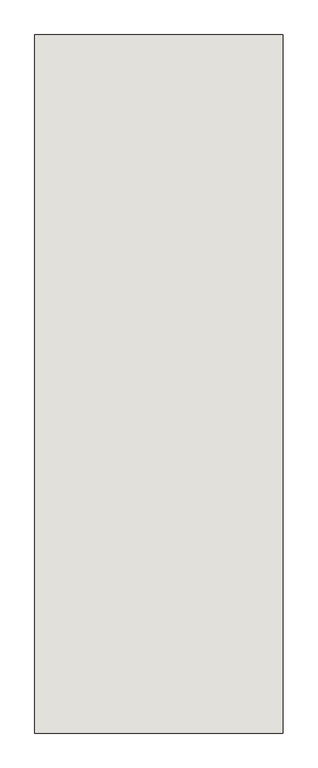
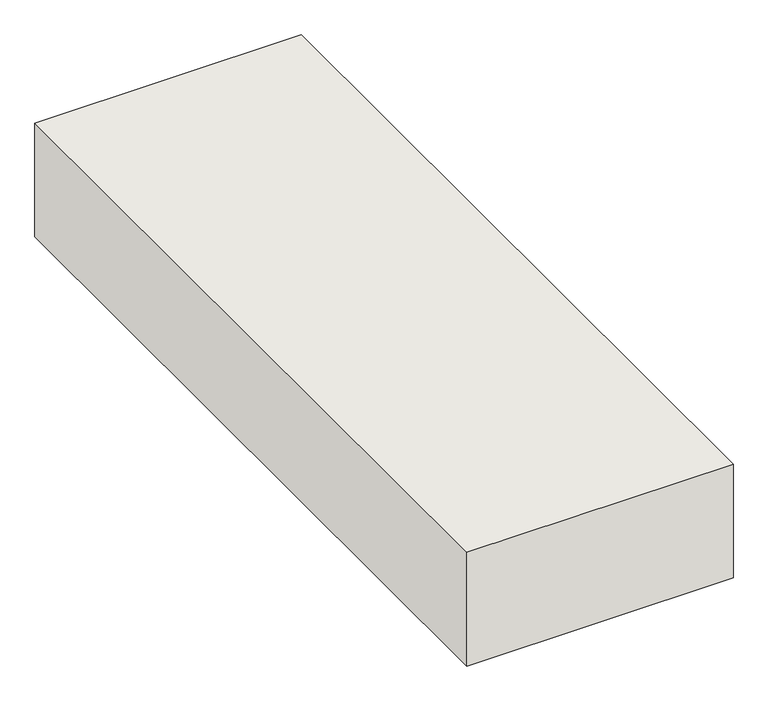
"""IFC4 building model written with IfcOpenShell, lengths in millimetres: wall geometry, ARQ-MU-IN-33x33-Gen : ARQ-MU-IN-33x33-Gen."""

from ifc_helpers import new_model, si_unit, frame, origin, place, context, project, spatial, polyline, outline, extrude, source, transform, mapped, element, save


def wall_5473c17b(model_context):
    return source(origin(), model_context, "Body", "SweptSolid", [
        extrude(outline(polyline([(6084.2897792, -807.1629444), (5354.2897792, -807.1629444), (5354.2897792, 1244.3072273), (6084.2897792, 1244.3072273), (6084.2897792, -807.1629444)])), frame((0.0, 0.0, 2730.0), z_axis=(0.0, 0.0, 1.0), x_axis=(1.0, 0.0, 0.0)), (0.0, 0.0, 1.0), 330.0),
    ])


if __name__ == "__main__":
    model = new_model("IFC4")
    model_context = context("Model", 3, world=origin())
    ifc_project = project(units=[si_unit("LENGTHUNIT", "METRE", prefix="MILLI")], contexts=[model_context])
    site = spatial("IfcSite", under=ifc_project)
    building = spatial("IfcBuilding", under=site)
    placement = place(None, origin())
    wall_shape = wall_5473c17b(model_context)
    element("IfcWall", 1, ObjectType="ARQ-MU-IN-33x33-Gen : ARQ-MU-IN-33x33-Gen", at=placement, inside=building, context=model_context, shape_type="MappedRepresentation", body=[
        mapped(wall_shape, transform((0.0, 0.0, 0.0), x_axis=(1.0, 0.0, 0.0), y_axis=(0.0, 1.0, 0.0), z_axis=(0.0, 0.0, 1.0))),
    ])
    save(model, "model.ifc")
